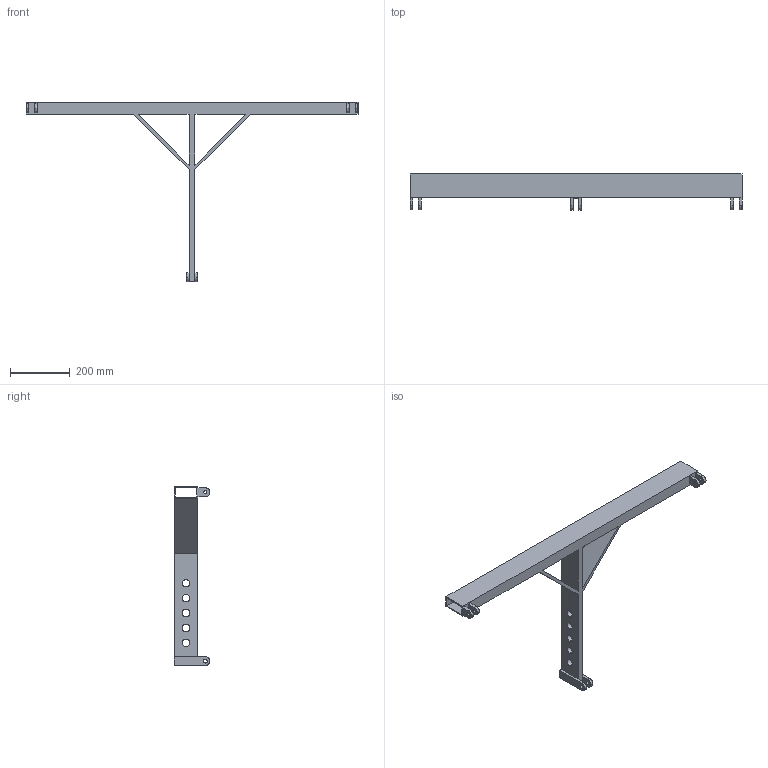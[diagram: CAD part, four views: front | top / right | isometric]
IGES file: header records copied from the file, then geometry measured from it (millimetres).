
Start section: SolidWorks IGES file using analytic representation for surfaces
Global section: file name: C:\Dokumente und Einstellungen\PC_Fabian\Desktop\Galeo_und_Co\Seeburg_GaleoXT-Cradle.IGS; native system: SolidWorks 2009; preprocessor: SolidWorks 2009; author: PC_Fabian; date: 121017.111239; units: millimetre
Bounding box: 1114 x 120 x 601.5 mm (x, y, z)
Surface area: 724761.1 mm2 (no closed solid volume)
Topology: 0 solids, 0 shells, 76 faces, 1448 edges, 1448 vertices
Faces by surface type: bspline 42, revolution 34
